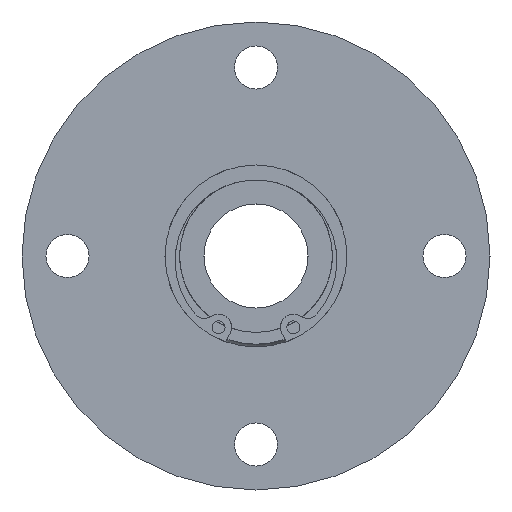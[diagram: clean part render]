
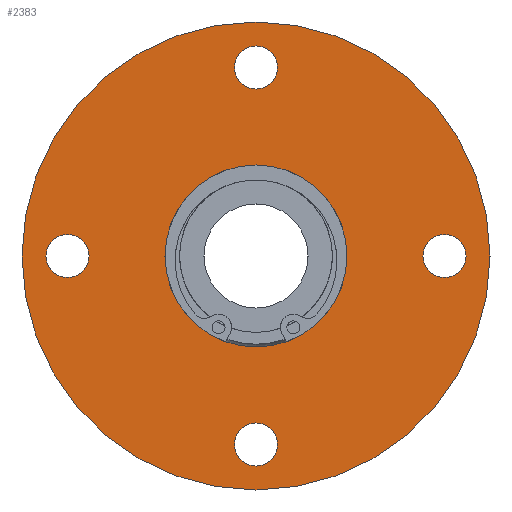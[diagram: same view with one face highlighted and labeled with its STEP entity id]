
A CAD part, left-side view. The second image highlights one B-rep face of the part: STEP entity #2383.
In plain terms, the highlighted planar face has unit normal (-1, 0, 0).
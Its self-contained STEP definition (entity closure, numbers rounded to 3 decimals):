
#1370=CARTESIAN_POINT('',(0.0,29.,-3.324));
#1371=VERTEX_POINT('',#1370);
#1372=CARTESIAN_POINT('',(0.0,29.,0.));
#1373=DIRECTION('',(1.0,0.0,0.0));
#1374=DIRECTION('',(0.0,0.0,-1.0));
#1375=AXIS2_PLACEMENT_3D('',#1372,#1373,#1374);
#1376=CIRCLE('',#1375,3.324);
#1377=EDGE_CURVE('',#1371,#1371,#1376,.T.);
#1398=CARTESIAN_POINT('',(0.0,-3.323,-29.));
#1399=VERTEX_POINT('',#1398);
#1400=CARTESIAN_POINT('',(0.0,0.,-29.));
#1401=DIRECTION('',(1.0,0.0,0.0));
#1402=DIRECTION('',(0.0,-1.0,0.0));
#1403=AXIS2_PLACEMENT_3D('',#1400,#1401,#1402);
#1404=CIRCLE('',#1403,3.324);
#1405=EDGE_CURVE('',#1399,#1399,#1404,.T.);
#1426=CARTESIAN_POINT('',(0.0,-29.,3.323));
#1427=VERTEX_POINT('',#1426);
#1428=CARTESIAN_POINT('',(0.0,-29.,0.));
#1429=DIRECTION('',(1.0,0.0,0.0));
#1430=DIRECTION('',(0.0,0.0,1.0));
#1431=AXIS2_PLACEMENT_3D('',#1428,#1429,#1430);
#1432=CIRCLE('',#1431,3.324);
#1433=EDGE_CURVE('',#1427,#1427,#1432,.T.);
#1454=CARTESIAN_POINT('',(0.0,3.323,29.));
#1455=VERTEX_POINT('',#1454);
#1456=CARTESIAN_POINT('',(0.0,0.,29.));
#1457=DIRECTION('',(1.0,0.0,0.0));
#1458=DIRECTION('',(0.0,1.0,0.0));
#1459=AXIS2_PLACEMENT_3D('',#1456,#1457,#1458);
#1460=CIRCLE('',#1459,3.324);
#1461=EDGE_CURVE('',#1455,#1455,#1460,.T.);
#2331=CARTESIAN_POINT('',(0.0,0.0,14.));
#2332=VERTEX_POINT('',#2331);
#2333=CARTESIAN_POINT('',(0.0,0.0,0.0));
#2334=DIRECTION('',(-1.0,0.0,0.0));
#2335=DIRECTION('',(0.0,0.0,1.0));
#2336=AXIS2_PLACEMENT_3D('',#2333,#2334,#2335);
#2337=CIRCLE('',#2336,14.);
#2338=EDGE_CURVE('',#2332,#2332,#2337,.T.);
#2352=CARTESIAN_POINT('',(0.0,0.0,25.0));
#2353=DIRECTION('',(-1.0,0.0,0.0));
#2354=DIRECTION('',(0.0,0.0,1.0));
#2355=AXIS2_PLACEMENT_3D('',#2352,#2353,#2354);
#2356=PLANE('',#2355);
#2357=CARTESIAN_POINT('',(0.0,0.0,36.0));
#2358=VERTEX_POINT('',#2357);
#2359=CARTESIAN_POINT('',(0.0,0.0,0.0));
#2360=DIRECTION('',(-1.0,0.0,0.0));
#2361=DIRECTION('',(0.0,0.0,1.0));
#2362=AXIS2_PLACEMENT_3D('',#2359,#2360,#2361);
#2363=CIRCLE('',#2362,36.0);
#2364=EDGE_CURVE('',#2358,#2358,#2363,.T.);
#2365=ORIENTED_EDGE('',*,*,#2364,.T.);
#2366=EDGE_LOOP('',(#2365));
#2367=FACE_OUTER_BOUND('',#2366,.T.);
#2368=ORIENTED_EDGE('',*,*,#1377,.T.);
#2369=EDGE_LOOP('',(#2368));
#2370=FACE_BOUND('',#2369,.T.);
#2371=ORIENTED_EDGE('',*,*,#1405,.T.);
#2372=EDGE_LOOP('',(#2371));
#2373=FACE_BOUND('',#2372,.T.);
#2374=ORIENTED_EDGE('',*,*,#1433,.T.);
#2375=EDGE_LOOP('',(#2374));
#2376=FACE_BOUND('',#2375,.T.);
#2377=ORIENTED_EDGE('',*,*,#1461,.T.);
#2378=EDGE_LOOP('',(#2377));
#2379=FACE_BOUND('',#2378,.T.);
#2380=ORIENTED_EDGE('',*,*,#2338,.F.);
#2381=EDGE_LOOP('',(#2380));
#2382=FACE_BOUND('',#2381,.T.);
#2383=ADVANCED_FACE('',(#2367,#2370,#2373,#2376,#2379,#2382),#2356,.T.);
